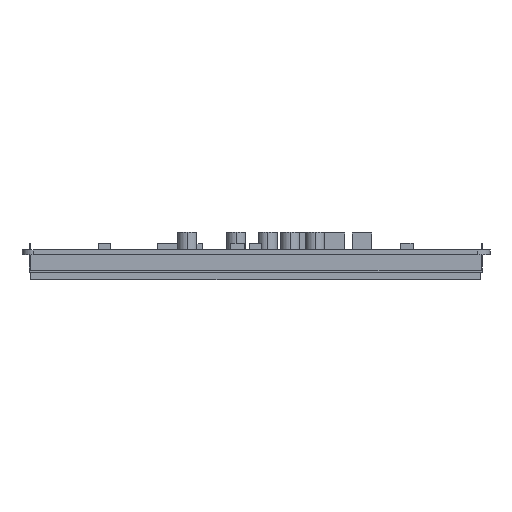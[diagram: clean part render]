
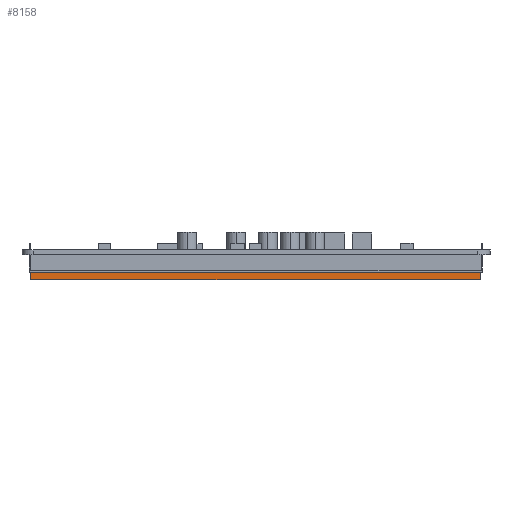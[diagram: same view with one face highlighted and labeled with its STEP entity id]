
A CAD part, front view. The second image highlights one B-rep face of the part: STEP entity #8158.
In plain terms, the highlighted planar face has unit normal (0, -1, 0).
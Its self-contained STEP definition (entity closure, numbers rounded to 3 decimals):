
#2563=DIRECTION('',(-1.,0.,0.));
#2564=VECTOR('',#2563,149.3);
#2565=CARTESIAN_POINT('',(75.118,-114.979,-7.4));
#2566=LINE('',#2565,#2564);
#2567=DIRECTION('',(0.,0.,1.));
#2568=VECTOR('',#2567,2.5);
#2569=CARTESIAN_POINT('',(-74.182,-114.979,-9.9));
#2570=LINE('',#2569,#2568);
#2571=DIRECTION('',(0.,0.,1.));
#2572=VECTOR('',#2571,2.5);
#2573=CARTESIAN_POINT('',(75.118,-114.979,-9.9));
#2574=LINE('',#2573,#2572);
#2587=DIRECTION('',(-1.,0.,0.));
#2588=VECTOR('',#2587,149.3);
#2589=CARTESIAN_POINT('',(75.118,-114.979,-9.9));
#2590=LINE('',#2589,#2588);
#4469=CARTESIAN_POINT('',(-74.182,-114.979,-9.9));
#4471=VERTEX_POINT('',#4469);
#4475=CARTESIAN_POINT('',(75.118,-114.979,-9.9));
#4476=VERTEX_POINT('',#4475);
#4493=CARTESIAN_POINT('',(-74.182,-114.979,-7.4));
#4495=VERTEX_POINT('',#4493);
#4499=CARTESIAN_POINT('',(75.118,-114.979,-7.4));
#4500=VERTEX_POINT('',#4499);
#8145=CARTESIAN_POINT('',(75.118,-114.979,-9.9));
#8146=DIRECTION('',(0.,-1.,0.));
#8147=DIRECTION('',(-1.,0.,0.));
#8148=AXIS2_PLACEMENT_3D('',#8145,#8146,#8147);
#8149=PLANE('',#8148);
#8150=ORIENTED_EDGE('',*,*,#8118,.F.);
#8152=ORIENTED_EDGE('',*,*,#8151,.F.);
#8154=ORIENTED_EDGE('',*,*,#8153,.T.);
#8155=ORIENTED_EDGE('',*,*,#8136,.T.);
#8156=EDGE_LOOP('',(#8150,#8152,#8154,#8155));
#8157=FACE_OUTER_BOUND('',#8156,.F.);
#8118=EDGE_CURVE('',#4500,#4495,#2566,.T.);
#8136=EDGE_CURVE('',#4471,#4495,#2570,.T.);
#8151=EDGE_CURVE('',#4476,#4500,#2574,.T.);
#8153=EDGE_CURVE('',#4476,#4471,#2590,.T.);
#8158=ADVANCED_FACE('',(#8157),#8149,.T.);
